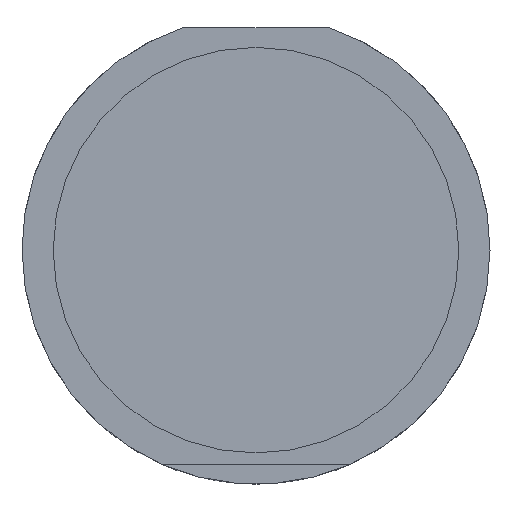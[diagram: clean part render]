
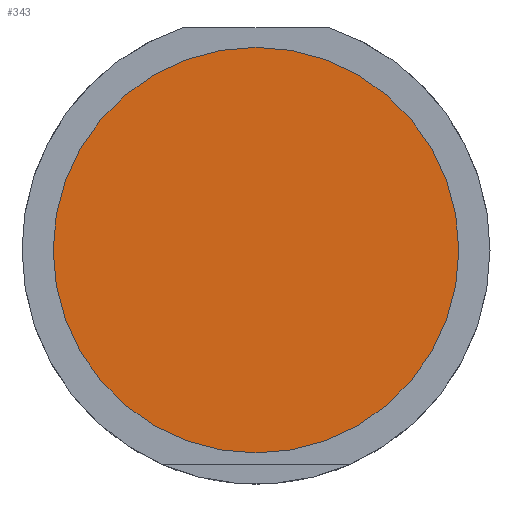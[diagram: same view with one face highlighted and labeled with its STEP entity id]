
A CAD part, front view. The second image highlights one B-rep face of the part: STEP entity #343.
In plain terms, the highlighted planar face has unit normal (0, -1, 0).
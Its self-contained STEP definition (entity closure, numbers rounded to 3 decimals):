
#9 = CIRCLE ( 'NONE', #459, 5.2 ) ;
#115 = ORIENTED_EDGE ( 'NONE', *, *, #440, .T. ) ;
#116 = ORIENTED_EDGE ( 'NONE', *, *, #499, .T. ) ;
#185 = FACE_OUTER_BOUND ( 'NONE', #313, .T. ) ;
#277 = VERTEX_POINT ( 'NONE', #635 ) ;
#280 = VERTEX_POINT ( 'NONE', #632 ) ;
#313 = EDGE_LOOP ( 'NONE', ( #115, #116 ) ) ;
#343 = ADVANCED_FACE ( 'NONE', ( #185 ), #689, .T. ) ;
#356 = CARTESIAN_POINT ( 'NONE',  ( 0., -10., 0. ) ) ;
#382 = AXIS2_PLACEMENT_3D ( 'NONE', #816, #813, #812 ) ;
#440 = EDGE_CURVE ( 'NONE', #280, #277, #541, .T. ) ;
#459 = AXIS2_PLACEMENT_3D ( 'NONE', #356, #546, #544 ) ;
#461 = AXIS2_PLACEMENT_3D ( 'NONE', #690, #688, #687 ) ;
#499 = EDGE_CURVE ( 'NONE', #277, #280, #9, .T. ) ;
#541 = CIRCLE ( 'NONE', #382, 5.2 ) ;
#544 = DIRECTION ( 'NONE',  ( 1., 0., 0. ) ) ;
#546 = DIRECTION ( 'NONE',  ( 0., -1., 0. ) ) ;
#632 = CARTESIAN_POINT ( 'NONE',  ( -5.2, -10., 0. ) ) ;
#635 = CARTESIAN_POINT ( 'NONE',  ( 5.2, -10., 0. ) ) ;
#687 = DIRECTION ( 'NONE',  ( 1., 0., 0. ) ) ;
#688 = DIRECTION ( 'NONE',  ( 0., -1., 0. ) ) ;
#689 = PLANE ( 'NONE',  #461 ) ;
#690 = CARTESIAN_POINT ( 'NONE',  ( 0., -10., 0. ) ) ;
#812 = DIRECTION ( 'NONE',  ( 1., 0., 0. ) ) ;
#813 = DIRECTION ( 'NONE',  ( 0., -1., 0. ) ) ;
#816 = CARTESIAN_POINT ( 'NONE',  ( 0., -10., 0. ) ) ;
